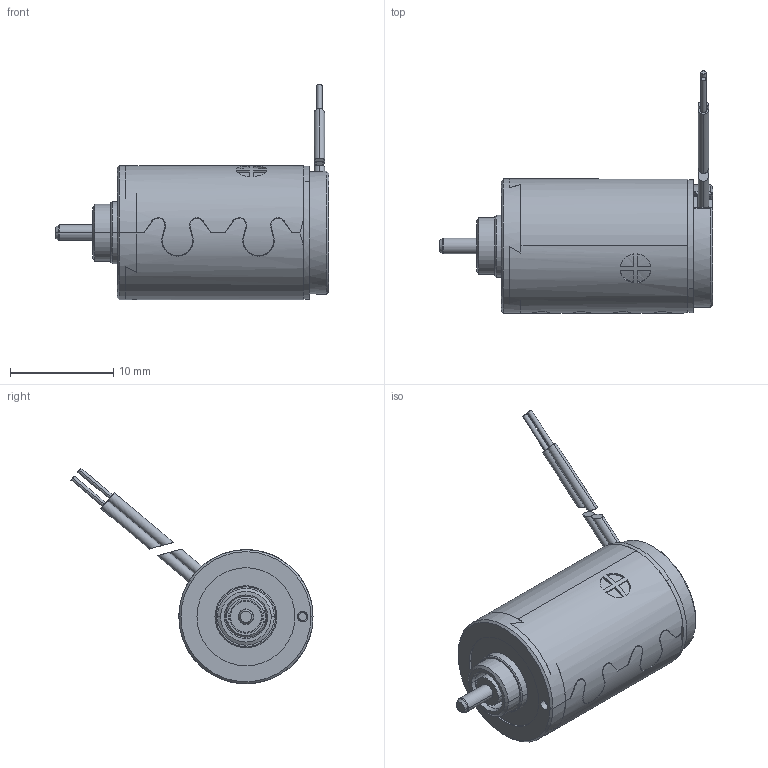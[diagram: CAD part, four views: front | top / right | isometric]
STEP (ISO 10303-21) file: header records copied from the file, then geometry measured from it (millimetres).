
FILE_DESCRIPTION((''),'2;1');
FILE_NAME('201352','2016-10-21T',('mmagpetk'),(''),'CREO PARAMETRIC BY PTC INC, 2016050','CREO PARAMETRIC BY PTC INC, 2016050','');
FILE_SCHEMA(('CONFIG_CONTROL_DESIGN'));
Length unit declared in the file: millimetre
Products named in the file (1): 201352
Bounding box: 26.5 x 23.45 x 20.89 mm (x, y, z)
Volume: 2729.6 mm3; surface area: 1511.2 mm2
Topology: 3 solids, 3 shells, 203 faces, 518 edges, 335 vertices
Faces by surface type: plane 97, cylinder 73, cone 19, torus 12, bspline 2
Entity records: 9254 total; most frequent: CARTESIAN_POINT 2770, ORIENTED_EDGE 1036, DIRECTION 957, PRESENTATION_STYLE_ASSIGNMENT 520, STYLED_ITEM 520, CURVE_STYLE 518, EDGE_CURVE 518, AXIS2_PLACEMENT_3D 375
